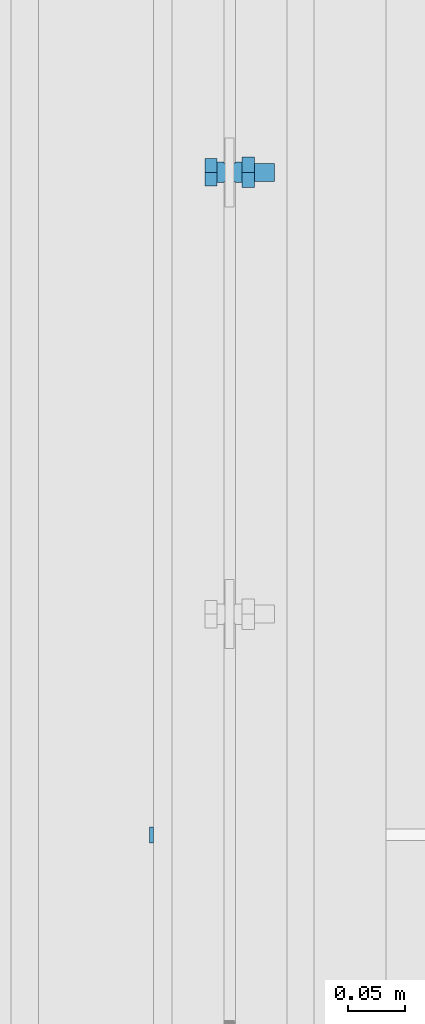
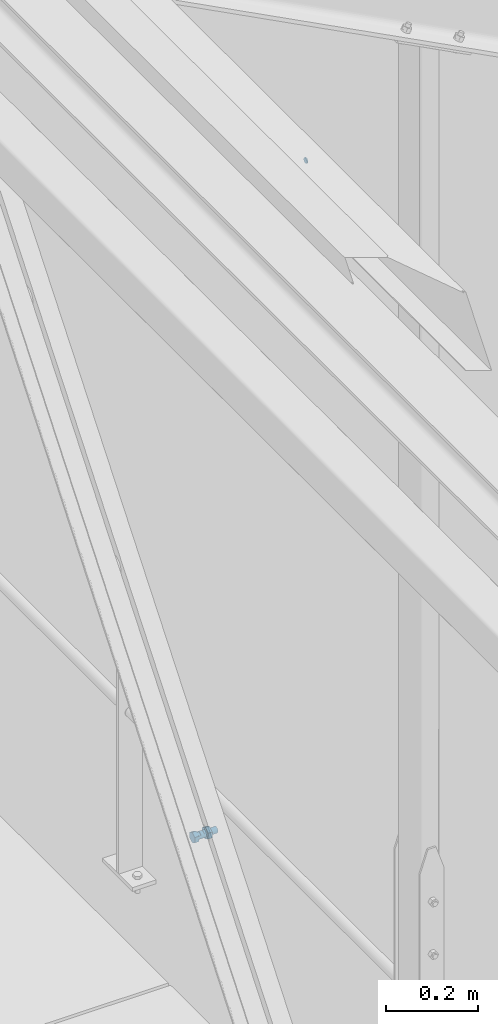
# One storey, part 247 of 362: 2 mechanical fasteners.
"""IFC2X3 building model written with IfcOpenShell, lengths in millimetres."""

from ifc_helpers import new_model, si_unit, frame, origin_with_axes, origin_2d_with_axis, place, context, subcontext, project, spatial, polyline, circle, outline, extrude, source, transform, mapped, material, type_object, element, save


model = new_model("IFC2X3")

# Units and contexts
model_context = context("Model", 3, precision=1e-05, world=origin_with_axes())
body_context = subcontext(model_context, "Body", "Model", "MODEL_VIEW")
ifc_project = project(units=[si_unit("LENGTHUNIT", "METRE", prefix="MILLI"), si_unit("AREAUNIT", "SQUARE_METRE"), si_unit("VOLUMEUNIT", "CUBIC_METRE"), si_unit("MASSUNIT", "GRAM", prefix="KILO"), si_unit("TIMEUNIT", "SECOND"), si_unit("PLANEANGLEUNIT", "RADIAN"), si_unit("SOLIDANGLEUNIT", "STERADIAN"), si_unit("THERMODYNAMICTEMPERATUREUNIT", "DEGREE_CELSIUS"), si_unit("LUMINOUSINTENSITYUNIT", "LUMEN")], contexts=[model_context])

# Site, building, storey
site_placement = place(None, origin_with_axes())
site = spatial("IfcSite", under=ifc_project, at=site_placement, Name="Undefined", CompositionType="ELEMENT")
building_placement = place(site_placement, origin_with_axes())
building = spatial("IfcBuilding", under=site, at=building_placement, Name="Undefined", CompositionType="ELEMENT")
storey_placement = place(building_placement, origin_with_axes())
storey = spatial("IfcBuildingStorey", under=building, at=storey_placement, Name="Undefined", CompositionType="ELEMENT", Elevation=0.0)

# Mechanical fasteners
ifc_material_1 = material(Name="6.8")
mechanical_fastener_type = type_object("IfcMechanicalFastenerType", Name="Bolt assembly")
shared_shape_1 = source(origin_with_axes(), body_context, "Body", "SweptSolid", [
    extrude(circle(Radius=7.0, at=origin_2d_with_axis()), frame((0.0, 0.0, 0.0), z_axis=(0.0, 1.0, 0.0), x_axis=(1.0, 0.0, 0.0)), (0.0, 0.0, 1.0), 3.1),
])
mechanical_fastener_1_placement = place(storey_placement, frame((12613.4999989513, 9499.99999584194, 12543.8320725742), z_axis=(0.0, -1.0, 0.0), x_axis=(0.0, 0.0, 1.0)))
element("IfcMechanicalFastener", 1, at=mechanical_fastener_1_placement, inside=storey, type_object=mechanical_fastener_type, material=ifc_material_1, Name="Bolt assembly", NominalDiameter=12.0, NominalLength=3.0, context=body_context, shape_type="MappedRepresentation", body=[
    mapped(shared_shape_1, transform((0.0, 0.0, 0.0))),
])
ifc_material_2 = material(Name="8.8-SB-ZINGUE")
shared_shape_2 = source(origin_with_axes(), body_context, "Body", "SweptSolid", [
    extrude(circle(Radius=9.0, at=origin_2d_with_axis()), frame((0.0, -10.9000000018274, 0.0), z_axis=(0.0, 1.0, 0.0), x_axis=(1.0, 0.0, 0.0)), (0.0, 0.0, 1.0), 6.0),
    extrude(circle(Radius=9.0, at=origin_2d_with_axis()), frame((0.0, 4.9000000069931, 0.0), z_axis=(0.0, 1.0, 0.0), x_axis=(1.0, 0.0, 0.0)), (0.0, 0.0, 1.0), 6.1),
    extrude(circle(Radius=9.0, at=origin_2d_with_axis()), frame((0.0, -3.99999923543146, 0.0), z_axis=(0.0, 1.0, 0.0), x_axis=(1.0, 0.0, 0.0)), (0.0, 0.0, 1.0), 8.0),
    extrude(outline(polyline([(13.85640646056, 0.0), (6.92820323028, 12.0000000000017), (-6.92820323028, 12.0000000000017), (-13.85640646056, 0.0), (-6.92820323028, -12.0000000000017), (6.92820323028, -12.0000000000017), (13.85640646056, 0.0)])), frame((0.0, -21.5600000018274, 0.0), z_axis=(0.0, 1.0, 0.0), x_axis=(1.0, 0.0, 0.0)), (0.0, 0.0, 1.0), 10.56),
    extrude(circle(Radius=8.0, at=origin_2d_with_axis()), frame((0.0, -11.0000000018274, 0.0), z_axis=(0.0, 1.0, 0.0), x_axis=(1.0, 0.0, 0.0)), (0.0, 0.0, 1.0), 50.0),
    extrude(outline(polyline([(15.3344231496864, 0.0), (7.6672115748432, 13.2800000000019), (-7.6672115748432, 13.2800000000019), (-15.3344231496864, 0.0), (-7.6672115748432, -13.2800000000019), (7.6672115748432, -13.2800000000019), (15.3344231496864, 0.0)])), frame((0.0, 11.0000000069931, 0.0), z_axis=(0.0, 1.0, 0.0), x_axis=(1.0, 0.0, 0.0)), (0.0, 0.0, 1.0), 10.56),
])
mechanical_fastener_2_placement = place(storey_placement, frame((12680.0, 10077.3769564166, 10370.8430227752), z_axis=(0.0, 1.0, 0.0), x_axis=(0.0, 0.0, 1.0)))
element("IfcMechanicalFastener", 2, at=mechanical_fastener_2_placement, inside=storey, type_object=mechanical_fastener_type, material=ifc_material_2, Name="Bolt assembly", NominalDiameter=16.0, NominalLength=50.0, context=body_context, shape_type="MappedRepresentation", body=[
    mapped(shared_shape_2, transform((0.0, 0.0, 0.0))),
])

save(model, "model.ifc")
